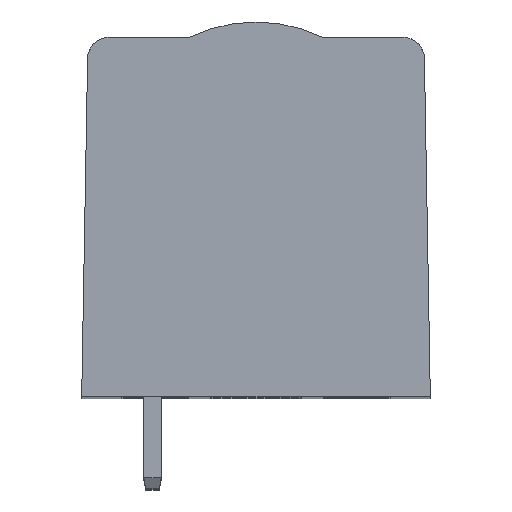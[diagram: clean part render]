
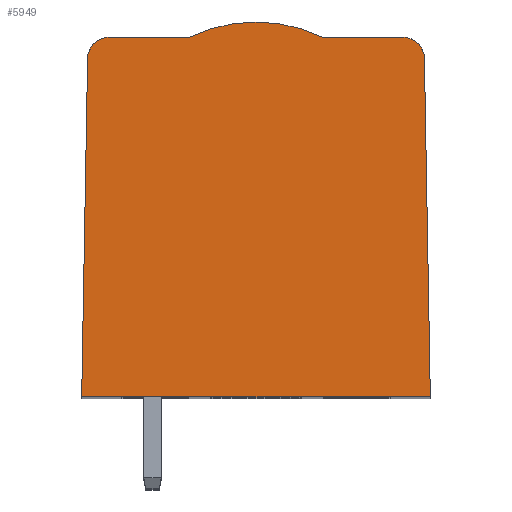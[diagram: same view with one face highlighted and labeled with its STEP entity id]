
A CAD part, top view. The second image highlights one B-rep face of the part: STEP entity #5949.
In plain terms, the highlighted planar face has unit normal (0, 0, 1).
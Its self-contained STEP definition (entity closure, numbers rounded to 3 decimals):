
#891 = CARTESIAN_POINT ( 'NONE',  ( -6.729, 16.5, 0. ) ) ;
#1087 = AXIS2_PLACEMENT_3D ( 'NONE', #16115, #15989, #11423 ) ;
#1162 = CARTESIAN_POINT ( 'NONE',  ( 0., 16.5, 0. ) ) ;
#1241 = CARTESIAN_POINT ( 'NONE',  ( 7.865, 7.759, 0. ) ) ;
#1770 = CARTESIAN_POINT ( 'NONE',  ( -3.051, 16.5, 0. ) ) ;
#2507 = CARTESIAN_POINT ( 'NONE',  ( -8., 0., 0. ) ) ;
#3582 = VECTOR ( 'NONE', #16947, 1000. ) ;
#4077 = LINE ( 'NONE', #4670, #3582 ) ;
#4078 = VERTEX_POINT ( 'NONE', #2507 ) ;
#4161 = CARTESIAN_POINT ( 'NONE',  ( -6.729, 15.5, 0. ) ) ;
#4659 = ORIENTED_EDGE ( 'NONE', *, *, #9762, .T. ) ;
#4670 = CARTESIAN_POINT ( 'NONE',  ( 0., 0., 0. ) ) ;
#4701 = VERTEX_POINT ( 'NONE', #891 ) ;
#5002 = VERTEX_POINT ( 'NONE', #18672 ) ;
#5080 = CARTESIAN_POINT ( 'NONE',  ( -8.096, 0., 0. ) ) ;
#5400 = VECTOR ( 'NONE', #7460, 1000. ) ;
#5468 = CARTESIAN_POINT ( 'NONE',  ( 6.729, 16.5, 0. ) ) ;
#5608 = CIRCLE ( 'NONE', #1087, 7. ) ;
#5949 = ADVANCED_FACE ( 'NONE', ( #12170 ), #8207, .T. ) ;
#6258 = ORIENTED_EDGE ( 'NONE', *, *, #13470, .T. ) ;
#6823 = AXIS2_PLACEMENT_3D ( 'NONE', #4161, #14894, #7361 ) ;
#7361 = DIRECTION ( 'NONE',  ( 1., 0., 0. ) ) ;
#7460 = DIRECTION ( 'NONE',  ( 0.017, -1., 0. ) ) ;
#7869 = EDGE_LOOP ( 'NONE', ( #15044, #6258, #16890, #8138, #8531, #11403, #11008, #4659 ) ) ;
#7912 = DIRECTION ( 'NONE',  ( 1., 0., 0. ) ) ;
#8138 = ORIENTED_EDGE ( 'NONE', *, *, #12026, .T. ) ;
#8207 = PLANE ( 'NONE',  #9795 ) ;
#8531 = ORIENTED_EDGE ( 'NONE', *, *, #13807, .T. ) ;
#9024 = CARTESIAN_POINT ( 'NONE',  ( 8., 0., 0. ) ) ;
#9756 = EDGE_CURVE ( 'NONE', #11606, #4701, #15372, .T. ) ;
#9762 = EDGE_CURVE ( 'NONE', #4701, #16948, #19438, .T. ) ;
#9795 = AXIS2_PLACEMENT_3D ( 'NONE', #5080, #18977, #15816 ) ;
#10089 = VECTOR ( 'NONE', #13364, 1000. ) ;
#10282 = CARTESIAN_POINT ( 'NONE',  ( -7.865, 7.759, 0. ) ) ;
#10287 = DIRECTION ( 'NONE',  ( -1., 0., 0. ) ) ;
#10311 = VECTOR ( 'NONE', #18036, 1000. ) ;
#11008 = ORIENTED_EDGE ( 'NONE', *, *, #9756, .T. ) ;
#11403 = ORIENTED_EDGE ( 'NONE', *, *, #12164, .T. ) ;
#11423 = DIRECTION ( 'NONE',  ( 1., 0., 0. ) ) ;
#11606 = VERTEX_POINT ( 'NONE', #1770 ) ;
#11795 = VECTOR ( 'NONE', #10287, 1000. ) ;
#12026 = EDGE_CURVE ( 'NONE', #5002, #13680, #13509, .T. ) ;
#12164 = EDGE_CURVE ( 'NONE', #14012, #11606, #5608, .T. ) ;
#12170 = FACE_OUTER_BOUND ( 'NONE', #7869, .T. ) ;
#12632 = DIRECTION ( 'NONE',  ( 0., 0., 1. ) ) ;
#13364 = DIRECTION ( 'NONE',  ( 0.017, 1., 0. ) ) ;
#13470 = EDGE_CURVE ( 'NONE', #4078, #17757, #4077, .T. ) ;
#13509 = CIRCLE ( 'NONE', #14453, 1. ) ;
#13555 = LINE ( 'NONE', #1241, #5400 ) ;
#13680 = VERTEX_POINT ( 'NONE', #5468 ) ;
#13773 = CARTESIAN_POINT ( 'NONE',  ( -7.729, 15.517, 0. ) ) ;
#13807 = EDGE_CURVE ( 'NONE', #13680, #14012, #15871, .T. ) ;
#14012 = VERTEX_POINT ( 'NONE', #18491 ) ;
#14168 = LINE ( 'NONE', #10282, #10089 ) ;
#14453 = AXIS2_PLACEMENT_3D ( 'NONE', #17274, #12632, #7912 ) ;
#14894 = DIRECTION ( 'NONE',  ( 0., 0., 1. ) ) ;
#15023 = CARTESIAN_POINT ( 'NONE',  ( 0., 16.5, 0. ) ) ;
#15044 = ORIENTED_EDGE ( 'NONE', *, *, #17313, .F. ) ;
#15372 = LINE ( 'NONE', #15023, #10311 ) ;
#15816 = DIRECTION ( 'NONE',  ( 1., 0., 0. ) ) ;
#15871 = LINE ( 'NONE', #1162, #11795 ) ;
#15989 = DIRECTION ( 'NONE',  ( 0., 0., 1. ) ) ;
#16045 = EDGE_CURVE ( 'NONE', #5002, #17757, #13555, .T. ) ;
#16115 = CARTESIAN_POINT ( 'NONE',  ( 0., 10.2, 0. ) ) ;
#16890 = ORIENTED_EDGE ( 'NONE', *, *, #16045, .F. ) ;
#16947 = DIRECTION ( 'NONE',  ( 1., 0., 0. ) ) ;
#16948 = VERTEX_POINT ( 'NONE', #13773 ) ;
#17274 = CARTESIAN_POINT ( 'NONE',  ( 6.729, 15.5, 0. ) ) ;
#17313 = EDGE_CURVE ( 'NONE', #4078, #16948, #14168, .T. ) ;
#17757 = VERTEX_POINT ( 'NONE', #9024 ) ;
#18036 = DIRECTION ( 'NONE',  ( -1., 0., 0. ) ) ;
#18491 = CARTESIAN_POINT ( 'NONE',  ( 3.051, 16.5, 0. ) ) ;
#18672 = CARTESIAN_POINT ( 'NONE',  ( 7.729, 15.517, 0. ) ) ;
#18977 = DIRECTION ( 'NONE',  ( 0., 0., 1. ) ) ;
#19438 = CIRCLE ( 'NONE', #6823, 1. ) ;
